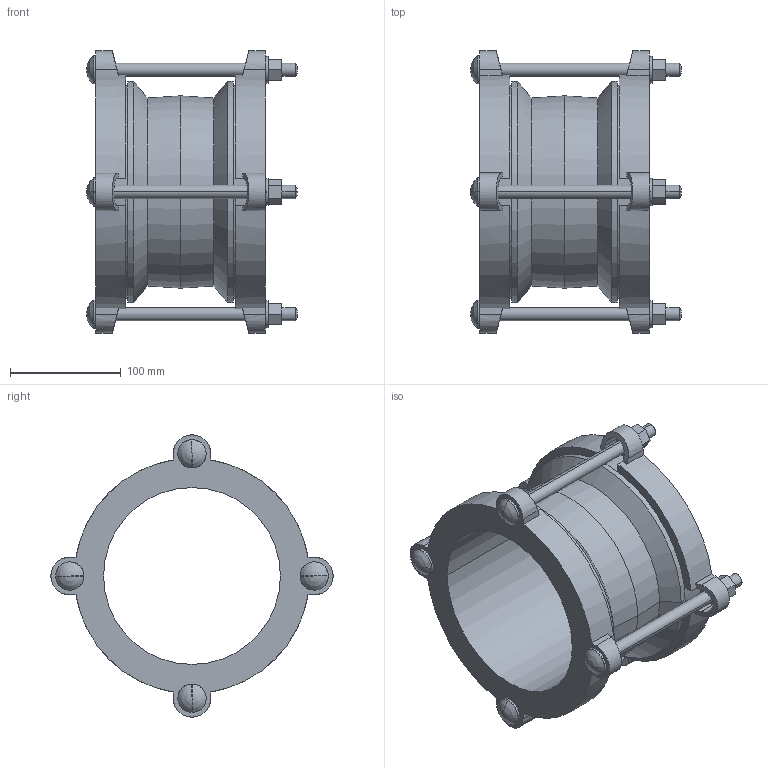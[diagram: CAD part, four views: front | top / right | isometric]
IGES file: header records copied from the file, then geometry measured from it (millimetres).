
Start section:  PTC IGES file: MAXIFIT_132-158.igs
Global section: file name: MAXIFIT_132-158.igs; native system: Creo Parametric by PTC Inc.; preprocessor: 2016130; author: MReader; organization: Unknown; date: 20180906.163253; units: millimetre
Bounding box: 190.33 x 254.5 x 254.5 mm (x, y, z)
Surface area: 276398.4 mm2 (no closed solid volume)
Topology: 0 solids, 0 shells, 198 faces, 1048 edges, 1032 vertices
Faces by surface type: bspline 100, revolution 98
